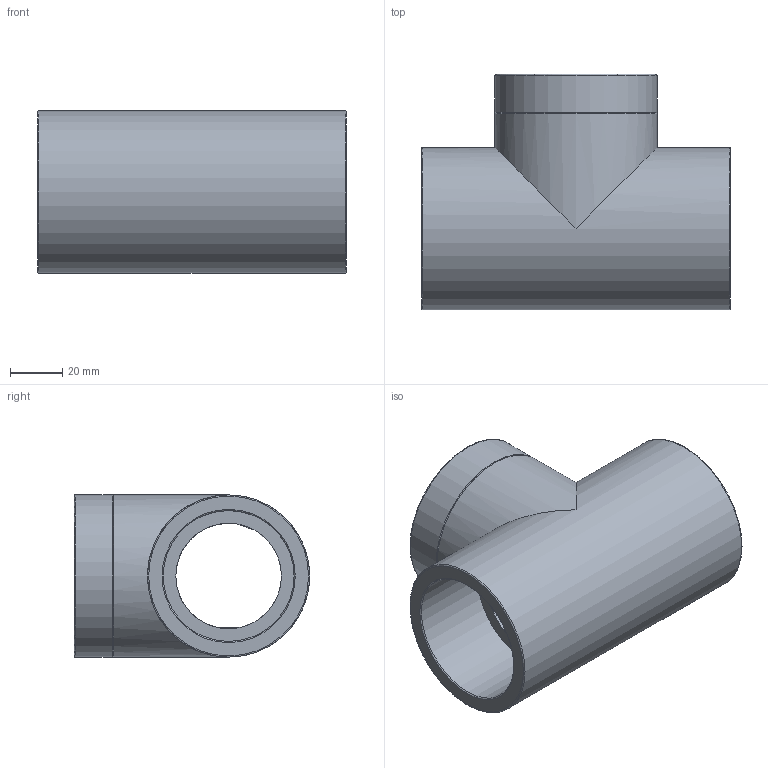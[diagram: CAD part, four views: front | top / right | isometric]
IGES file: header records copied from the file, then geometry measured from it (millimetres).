
Global section: file name: 050402050015.ipt; native system: Autodesk Inventor 2015; preprocessor: unknown; author: KIM; date: 20171207.165850; units: millimetre
Bounding box: 118 x 90 x 62 mm (x, y, z)
Volume: 201316.3 mm3; surface area: 53325 mm2
Topology: 1 solids, 1 shells, 21 faces, 59 edges, 43 vertices
Faces by surface type: revolution 10, plane 6, cylinder 3, cone 2
Full cylindrical faces by diameter (mm): 62 x3
